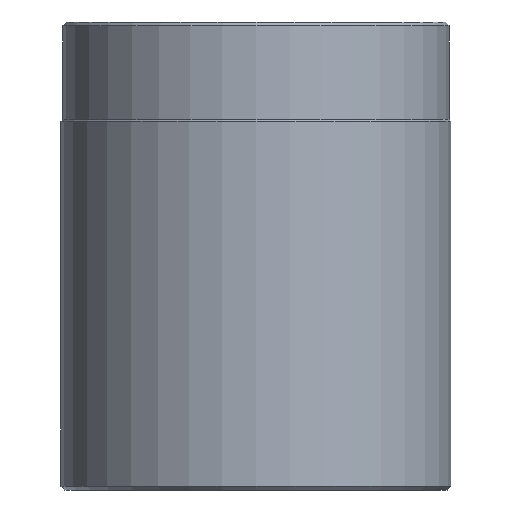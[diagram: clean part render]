
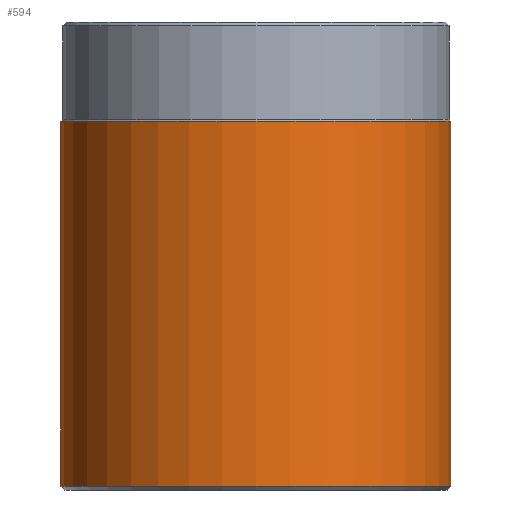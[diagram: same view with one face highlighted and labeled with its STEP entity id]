
A CAD part, front view. The second image highlights one B-rep face of the part: STEP entity #594.
In plain terms, the highlighted cylindrical face has radius 50 mm (diameter 100 mm), a partial arc.
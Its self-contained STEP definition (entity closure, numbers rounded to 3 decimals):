
#125=VERTEX_POINT(' ',#126);
#126=CARTESIAN_POINT('',(-50.,0.,1.));
#127=VERTEX_POINT(' ',#128);
#128=CARTESIAN_POINT('',(50.,0.,1.));
#129=VERTEX_POINT(' ',#130);
#130=CARTESIAN_POINT('',(-50.,0.,94.5));
#131=VERTEX_POINT(' ',#132);
#132=CARTESIAN_POINT('',(50.,0.,94.5));
#321=CIRCLE('',#322,50.);
#322=AXIS2_PLACEMENT_3D('',#323,#324,#325);
#323=CARTESIAN_POINT('',(0.,0.,1.));
#324=DIRECTION('',(0.,0.,1.));
#325=DIRECTION('',(0.,1.,0.));
#326=EDGE_CURVE(' ',#125,#127,#321,.T.);
#327=LINE('',#328,#329);
#328=CARTESIAN_POINT('',(-50.,0.,1.));
#329=VECTOR('',#330,1.);
#330=DIRECTION('',(0.,0.,1.));
#331=EDGE_CURVE(' ',#125,#129,#327,.T.);
#338=LINE('',#339,#340);
#339=CARTESIAN_POINT('',(50.,0.,1.));
#340=VECTOR('',#341,1.);
#341=DIRECTION('',(0.,0.,1.));
#342=EDGE_CURVE(' ',#127,#131,#338,.T.);
#343=CIRCLE('',#344,50.);
#344=AXIS2_PLACEMENT_3D('',#345,#346,#347);
#345=CARTESIAN_POINT('',(0.,0.,94.5));
#346=DIRECTION('',(0.,0.,1.));
#347=DIRECTION('',(0.,1.,0.));
#348=EDGE_CURVE(' ',#129,#131,#343,.T.);
#583=ORIENTED_EDGE('',*,*,#331,.F.);
#584=ORIENTED_EDGE('',*,*,#326,.T.);
#585=ORIENTED_EDGE('',*,*,#342,.T.);
#586=ORIENTED_EDGE('',*,*,#348,.F.);
#587=EDGE_LOOP('',(#583,#584,#585,#586));
#588=FACE_OUTER_BOUND('',#587,.T.);
#589=CYLINDRICAL_SURFACE('',#590,50.);
#590=AXIS2_PLACEMENT_3D('',#591,#592,#593);
#591=CARTESIAN_POINT('',(0.,0.,1.));
#592=DIRECTION('',(0.,0.,1.));
#593=DIRECTION('',(0.,1.,0.));
#594=ADVANCED_FACE('',(#588),#589,.T.);
